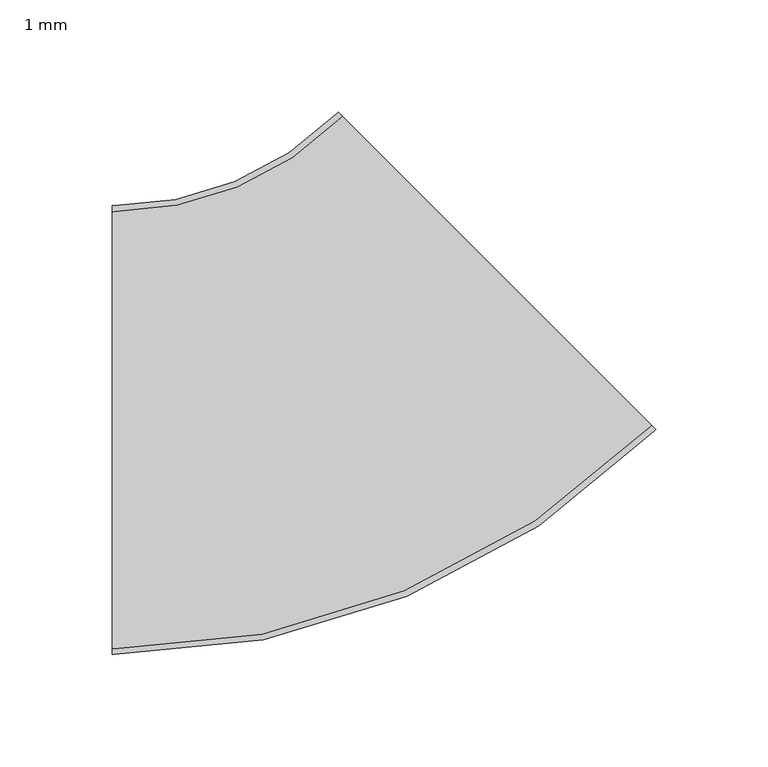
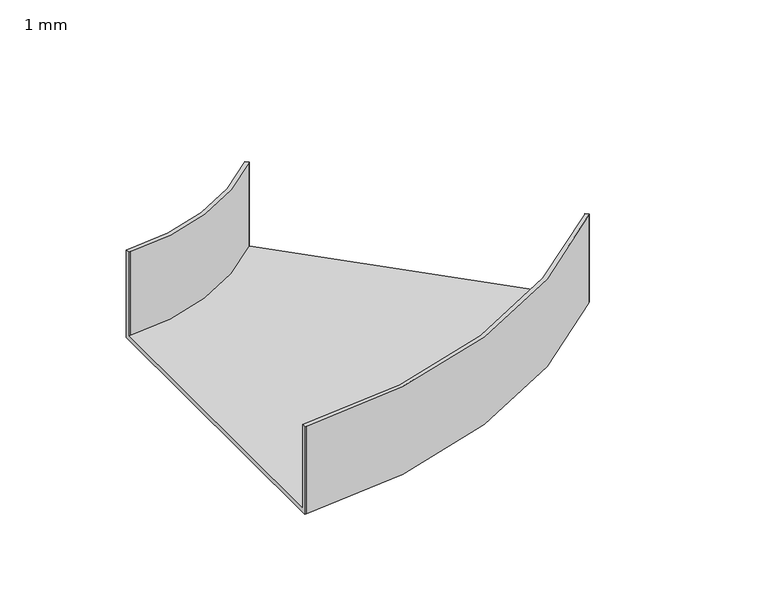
"""IFC4 building model written with IfcOpenShell, lengths in millimetres: cable carrier fitting geometry, BAKS_Kolano_koryta (R140) : 1 mm."""

import ifcopenshell
import ifcopenshell.guid

model = None  # the IFC model being written
_history = None  # IfcOwnerHistory: only IFC2X3 demands one
_inside = {}  # id of a spatial element -> (the spatial element, [elements in it])
_under = {}  # id of a project, library or spatial element -> (it, [spatial elements below it])
_declared = {}  # id of a project -> (the project, [libraries it declares])
_typed = {}  # id of a type object -> (the type object, [elements of that type])
_made_of = {}  # id of a material, layer set ... -> (it, [elements and type objects made of it])


def new_model(schema):
    """Start an empty IFC model of exactly this schema.

    Asked for "IFC4X3", IfcOpenShell would pick the latest addendum, in which some entities
    have other attributes; the version numbers below select the first issue.
    IFC2X3 requires an IfcOwnerHistory on every rooted entity: one is made here for all.
    """
    global model, _history
    if schema == "IFC4X3":
        model = ifcopenshell.file(schema_version=(4, 3, 0, 0))
    else:
        model = ifcopenshell.file(schema=schema)
    _inside.clear()
    _under.clear()
    _declared.clear()
    _typed.clear()
    _made_of.clear()
    _history = None
    if model.schema == "IFC2X3":
        org = make("IfcOrganization", Name="unknown")
        user = make(
            "IfcPersonAndOrganization",
            ThePerson=make("IfcPerson", FamilyName="unknown"),
            TheOrganization=org,
        )
        app = make(
            "IfcApplication",
            ApplicationDeveloper=org,
            Version="unknown",
            ApplicationFullName="unknown",
            ApplicationIdentifier="unknown",
        )
        _history = make(
            "IfcOwnerHistory",
            OwningUser=user,
            OwningApplication=app,
            ChangeAction="ADDED",
            CreationDate=0,
        )
    return model


def make(cls, **values):
    """One entity of the class cls with the attributes given. An attribute that is None is left unset."""
    return model.create_entity(
        cls, **{name: value for name, value in values.items() if value is not None}
    )


def rooted(cls, **values):
    """An entity with a GlobalId (a new one), such as an element, a storey or a relation."""
    return make(cls, GlobalId=ifcopenshell.guid.new(), OwnerHistory=_history, **values)


def si_unit(unit_type, name, prefix=None):
    """IfcSIUnit, for example si_unit("LENGTHUNIT", "METRE", prefix="MILLI")."""
    return make("IfcSIUnit", UnitType=unit_type, Prefix=prefix, Name=name)


def assignment(units):
    """IfcUnitAssignment: the units of a project."""
    return None if units is None else make("IfcUnitAssignment", Units=units)


def point(xyz):
    """IfcCartesianPoint."""
    return None if xyz is None else make("IfcCartesianPoint", Coordinates=xyz)


def direction(xyz):
    """IfcDirection."""
    return None if xyz is None else make("IfcDirection", DirectionRatios=xyz)


def frame(location, z_axis=None, x_axis=None):
    """IfcAxis2Placement3D, a coordinate frame: its origin and axes. An axis left out is left unset."""
    return make(
        "IfcAxis2Placement3D",
        Location=point(location),
        Axis=direction(z_axis),
        RefDirection=direction(x_axis),
    )


def origin():
    """The frame at (0, 0, 0) with its axes left unset."""
    return frame((0.0, 0.0, 0.0))


def place(relative_to, where):
    """IfcLocalPlacement: puts the frame where relative to a parent placement (None: the world)."""
    return make(
        "IfcLocalPlacement", PlacementRelTo=relative_to, RelativePlacement=where
    )


def context(
    kind, dimensions, precision=None, world=None, true_north=None, identifier=None
):
    """IfcGeometricRepresentationContext, for example the 3D "Model" context."""
    return make(
        "IfcGeometricRepresentationContext",
        ContextIdentifier=identifier,
        ContextType=kind,
        CoordinateSpaceDimension=dimensions,
        Precision=precision,
        WorldCoordinateSystem=world,
        TrueNorth=true_north,
    )


def project(units=None, contexts=None):
    """IfcProject with its units and contexts."""
    return rooted(
        "IfcProject",
        Name="project",
        RepresentationContexts=contexts,
        UnitsInContext=assignment(units),
    )


def spatial(cls, under=None, at=None, **own):
    """A site, building, storey or space (cls), placed at a placement, below another one or the project."""
    s = rooted(cls, ObjectPlacement=at, **own)
    if under is not None:
        _under.setdefault(under.id(), (under, []))[1].append(s)
    return s


def polyline(points):
    """IfcPolyline through the points."""
    return make("IfcPolyline", Points=[point(p) for p in points])


def circle_curve(where, radius):
    """IfcCircle in the frame where."""
    return make("IfcCircle", Position=where, Radius=radius)


def shape(context_of_items, identifier, shape_type, items):
    """IfcShapeRepresentation: the items that make up one representation, for example the "Body"."""
    return make(
        "IfcShapeRepresentation",
        ContextOfItems=context_of_items,
        RepresentationIdentifier=identifier,
        RepresentationType=shape_type,
        Items=items,
    )


def source(mapping_origin, context_of_items, identifier, shape_type, items):
    """IfcRepresentationMap: a shape defined once, which mapped items show again and again."""
    return make(
        "IfcRepresentationMap",
        MappingOrigin=mapping_origin,
        MappedRepresentation=shape(context_of_items, identifier, shape_type, items),
    )


def transform(
    local_origin,
    x_axis=None,
    y_axis=None,
    z_axis=None,
    scale=None,
    scale2=None,
    scale3=None,
    uniform=True,
):
    """IfcCartesianTransformationOperator3D, or its non-uniform kind. x_axis, y_axis, z_axis: its Axis1, 2, 3."""
    if uniform:
        return make(
            "IfcCartesianTransformationOperator3D",
            Axis1=direction(x_axis),
            Axis2=direction(y_axis),
            LocalOrigin=point(local_origin),
            Scale=scale,
            Axis3=direction(z_axis),
        )
    return make(
        "IfcCartesianTransformationOperator3DnonUniform",
        Axis1=direction(x_axis),
        Axis2=direction(y_axis),
        LocalOrigin=point(local_origin),
        Scale=scale,
        Axis3=direction(z_axis),
        Scale2=scale2,
        Scale3=scale3,
    )


def mapped(mapping_source, mapping_target):
    """IfcMappedItem: shows the shape of a source again, moved by a transform."""
    return make(
        "IfcMappedItem", MappingSource=mapping_source, MappingTarget=mapping_target
    )


def made_of(thing, what):
    """Note that an element or type object is made of a material, layer set ...; save() writes the relation."""
    if what is not None:
        _made_of.setdefault(what.id(), (what, []))[1].append(thing)
    return thing


def element(
    cls,
    number,
    at=None,
    inside=None,
    cuts=None,
    type_object=None,
    material=None,
    context=None,
    identifier="Body",
    shape_type=None,
    held_by="IfcProductDefinitionShape",
    body=None,
    shapes=None,
    **own,
):
    """One element of the class cls, such as IfcWall. Its Tag is "e" and its number.

    at: its placement. inside: the storey or other place that contains it. cuts: it is an
    opening in that element (IfcRelVoidsElement). A single representation is given by context,
    identifier, shape_type and body (its items); several are given by shapes. held_by: the class
    of the entity that holds the representations. save() writes the other relations.
    """
    e = rooted(cls, Tag="e%d" % number, ObjectPlacement=at, **own)
    if body is not None:
        shapes = [shape(context, identifier, shape_type, body)]
    if shapes is not None:
        e.Representation = make(held_by, Representations=shapes)
    if inside is not None:
        _inside.setdefault(inside.id(), (inside, []))[1].append(e)
    if cuts is not None:
        rooted(
            "IfcRelVoidsElement", RelatingBuildingElement=cuts, RelatedOpeningElement=e
        )
    if type_object is not None:
        _typed.setdefault(type_object.id(), (type_object, []))[1].append(e)
    return made_of(e, material)


def aggregate(whole, parts):
    """IfcRelAggregates: a whole, such as a stair, and the parts it consists of."""
    return rooted("IfcRelAggregates", RelatingObject=whole, RelatedObjects=parts)


def save(model, path):
    """Write the relations noted so far, then the file.

    IfcRelAggregates (storeys below a building ...), IfcRelContainedInSpatialStructure (elements
    in a storey), IfcRelDefinesByType, IfcRelAssociatesMaterial and IfcRelDeclares: one each for
    every whole, place, type object, material and project.
    """
    for whole, parts in _under.values():
        aggregate(whole, parts)
    for where, things in _inside.values():
        rooted(
            "IfcRelContainedInSpatialStructure",
            RelatedElements=things,
            RelatingStructure=where,
        )
    for kind, things in _typed.values():
        rooted("IfcRelDefinesByType", RelatedObjects=things, RelatingType=kind)
    for what, things in _made_of.values():
        rooted("IfcRelAssociatesMaterial", RelatedObjects=things, RelatingMaterial=what)
    for by, libraries in _declared.values():
        rooted("IfcRelDeclares", RelatingContext=by, RelatedDefinitions=libraries)
    model.write(path)


def plane_surface(at):
    """IfcPlane: the flat surface through the origin of the frame at, square to its z axis."""
    return make("IfcPlane", Position=at)


def cylinder_surface(at, radius):
    """IfcCylindricalSurface: all points at the distance radius from the z axis of the frame at."""
    return make("IfcCylindricalSurface", Position=at, Radius=radius)


def revolved_surface(curve, axis_point, axis_direction):
    """IfcSurfaceOfRevolution: the curve turned about the line through axis_point along axis_direction."""
    return make(
        "IfcSurfaceOfRevolution",
        SweptCurve=make("IfcArbitraryOpenProfileDef", ProfileType="CURVE", Curve=curve),
        AxisPosition=make("IfcAxis1Placement", Location=point(axis_point), Axis=direction(axis_direction)),
    )


def advanced_brep(points, edges, surfaces, faces):
    """IfcAdvancedBrep: a solid bounded by faces that lie on surfaces and meet in shared edges.

    An edge is (start, end): straight between two places in points (the first is 0);
    or (start, end, curve); or (start, end, curve, False) where it runs against its curve.
    A face is (place in surfaces, loops), or (place, loops, False) where it looks against
    its surface's normal. A loop lists edges by number (the first is 1), with a minus sign
    where the edge is run from its end to its start. The first loop is the outer one.
    """
    corners = [point(p) for p in points]
    vertices = [make("IfcVertexPoint", VertexGeometry=c) for c in corners]
    made = []
    for start, end, *more in edges:
        made.append(
            make(
                "IfcEdgeCurve",
                EdgeStart=vertices[start],
                EdgeEnd=vertices[end],
                EdgeGeometry=more[0] if more else make("IfcPolyline", Points=[corners[start], corners[end]]),
                SameSense=more[1] if len(more) > 1 else True,
            )
        )
    hull = []
    for where, loops, *sense in faces:
        bounds = []
        for j, loop in enumerate(loops):
            ring = [make("IfcOrientedEdge", EdgeElement=made[abs(k) - 1], Orientation=k > 0) for k in loop]
            bounds.append(
                make(
                    "IfcFaceOuterBound" if j == 0 else "IfcFaceBound",
                    Bound=make("IfcEdgeLoop", EdgeList=ring),
                    Orientation=True,
                )
            )
        hull.append(make("IfcAdvancedFace", Bounds=bounds, FaceSurface=surfaces[where], SameSense=sense[0] if sense else True))
    return make("IfcAdvancedBrep", Outer=make("IfcClosedShell", CfsFaces=hull))


def cable_carrier_fitting_1_mm_6862339d(model_context):
    return source(origin(), model_context, "Body", "AdvancedBrep", [
        advanced_brep(
        [(-100.411255, -100.0, -30.0), (-100.411255, -100.0, 30.0), (-100.411255, -97.46, 30.0), (-100.411255, -97.46, -27.46), (-100.411255, 97.46, -27.46), (-100.411255, 97.46, 30.0), (-100.411255, 100.0, 30.0), (-100.411255, 100.0, -30.0), (141.7121574, 0.2908012, -30.0), (0.2908012, 141.7121574, -30.0), (0.2908012, 141.7121574, 30.0), (2.0868524, 139.9161062, 30.0), (2.0868524, 139.9161062, -27.46), (139.9161062, 2.0868524, -27.46), (139.9161062, 2.0868524, 30.0), (141.7121574, 0.2908012, 30.0), (-99.411255, -100.0, -30.0), (-99.411255, -100.0, 30.0), (141.0050506, -0.4163056, 30.0), (139.2089994, 1.3797456, 30.0), (-99.411255, -97.46, 30.0), (-99.411255, -97.46, -27.46), (139.2089994, 1.3797456, -27.46), (1.3797456, 139.2089994, -27.46), (-99.411255, 97.46, -27.46), (-99.411255, 97.46, 30.0), (1.3797456, 139.2089994, 30.0), (-0.4163056, 141.0050506, 30.0), (-99.411255, 100.0, 30.0), (-99.411255, 100.0, -30.0), (-0.4163056, 141.0050506, -30.0), (141.0050506, -0.4163056, -30.0)],
        [
            (0, 1),
            (1, 2),
            (2, 3),
            (3, 4),
            (4, 5),
            (5, 6),
            (6, 7),
            (7, 0),
            (8, 9),
            (9, 10),
            (10, 11),
            (11, 12),
            (12, 13),
            (13, 14),
            (14, 15),
            (15, 8),
            (0, 16),
            (16, 17),
            (17, 1),
            (17, 18, circle_curve(frame((-99.411255, 240.0, 30.0), z_axis=(0.0, 0.0, 1.0), x_axis=(0.0, -1.0, 0.0)), 340.0)),
            (18, 15),
            (14, 19),
            (19, 20, circle_curve(frame((-99.411255, 240.0, 30.0), z_axis=(0.0, 0.0, -1.0), x_axis=(0.0, -1.0, 0.0)), 337.46)),
            (20, 2),
            (20, 21),
            (21, 3),
            (21, 22, circle_curve(frame((-99.411255, 240.0, -27.46), z_axis=(0.0, 0.0, 1.0), x_axis=(0.0, -1.0, 0.0)), 337.46)),
            (22, 13),
            (12, 23),
            (23, 24, circle_curve(frame((-99.411255, 240.0, -27.46), z_axis=(0.0, 0.0, -1.0), x_axis=(0.0, -1.0, 0.0)), 142.54)),
            (24, 4),
            (24, 25),
            (25, 5),
            (25, 26, circle_curve(frame((-99.411255, 240.0, 30.0), z_axis=(0.0, 0.0, 1.0), x_axis=(0.0, -1.0, 0.0)), 142.54)),
            (26, 11),
            (10, 27),
            (27, 28, circle_curve(frame((-99.411255, 240.0, 30.0), z_axis=(0.0, 0.0, -1.0), x_axis=(0.0, -1.0, 0.0)), 140.0)),
            (28, 6),
            (28, 29),
            (29, 7),
            (29, 30, circle_curve(frame((-99.411255, 240.0, -30.0), z_axis=(0.0, 0.0, 1.0), x_axis=(0.0, -1.0, 0.0)), 140.0)),
            (30, 9),
            (8, 31),
            (31, 16, circle_curve(frame((-99.411255, 240.0, -30.0), z_axis=(0.0, 0.0, -1.0), x_axis=(0.0, -1.0, 0.0)), 340.0)),
            (31, 18),
            (19, 22),
            (23, 26),
            (27, 30),
        ],
        [
            plane_surface(frame((-100.411255, 0.0, 0.0), z_axis=(-1.0, -4.906741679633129e-12, 0.0), x_axis=(0.0, 0.0, 1.0))),
            plane_surface(frame((71.0014793, 71.0014793, 0.0), z_axis=(0.707106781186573, 0.707106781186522, 0.0), x_axis=(0.0, 0.0, 1.0))),
            plane_surface(frame((-100.411255, -100.0, -30.0), z_axis=(4.906741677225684e-12, -1.0, 0.0), x_axis=(1.0, 4.906741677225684e-12, 0.0))),
            plane_surface(frame((-100.411255, -100.0, 30.0), z_axis=(0.0, 0.0, 1.0), x_axis=(1.0, 4.906741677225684e-12, 0.0))),
            plane_surface(frame((-100.411255, -97.46, 30.0), z_axis=(-4.889821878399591e-12, 1.0, 0.0), x_axis=(1.0, 4.889821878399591e-12, 0.0))),
            plane_surface(frame((-100.411255, -97.46, -27.46), z_axis=(0.0, 0.0, 1.0), x_axis=(1.0, 4.906741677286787e-12, 0.0))),
            plane_surface(frame((-100.411255, 97.46, -27.46), z_axis=(4.906741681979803e-12, -1.0, 0.0), x_axis=(1.0, 4.906741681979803e-12, 0.0))),
            plane_surface(frame((-100.411255, 97.46, 30.0), z_axis=(0.0, 0.0, 1.0), x_axis=(1.0, 4.906741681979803e-12, 0.0))),
            plane_surface(frame((-100.411255, 100.0, 30.0), z_axis=(-4.906741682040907e-12, 1.0, 0.0), x_axis=(1.0, 4.906741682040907e-12, 0.0))),
            plane_surface(frame((-100.411255, 100.0, -30.0), z_axis=(0.0, 0.0, -1.0), x_axis=(1.0, 4.906741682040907e-12, 0.0))),
            cylinder_surface(frame((-99.411255, 240.0, 0.0), z_axis=(0.0, 0.0, 1.0), x_axis=(0.0, -1.0, 0.0)), 340.0),
            revolved_surface(polyline([(-99.411255, -97.45999999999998, 30.0), (-99.411255, -97.45999999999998, -27.46)]), (-99.411255, 240.0, 0.0), (0.0, 0.0, 1.0)),
            cylinder_surface(frame((-99.411255, 240.0, 0.0), z_axis=(0.0, 0.0, 1.0), x_axis=(0.0, -1.0, 0.0)), 142.54),
            revolved_surface(polyline([(-99.411255, 100.0, 30.0), (-99.411255, 100.0, -30.0)]), (-99.411255, 240.0, 0.0), (0.0, 0.0, 1.0)),
            plane_surface(frame((141.0050506, -0.4163056, -30.0), z_axis=(0.7071067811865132, -0.7071067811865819, 0.0), x_axis=(0.7071067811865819, 0.7071067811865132, 0.0))),
            plane_surface(frame((139.2089994, 1.3797456, 30.0), z_axis=(-0.7071067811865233, 0.7071067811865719, 0.0), x_axis=(0.7071067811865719, 0.7071067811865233, 0.0))),
            plane_surface(frame((1.3797456, 139.2089994, -27.46), z_axis=(0.707106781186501, -0.7071067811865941, 0.0), x_axis=(0.7071067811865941, 0.707106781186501, 0.0))),
            plane_surface(frame((-0.4163056, 141.0050506, 30.0), z_axis=(-0.7071067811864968, 0.7071067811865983, 0.0), x_axis=(0.7071067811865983, 0.7071067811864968, 0.0))),
        ],
        [
            (0, [[1, 2, 3, 4, 5, 6, 7, 8]]),
            (1, [[9, 10, 11, 12, 13, 14, 15, 16]]),
            (2, [[-1, 17, 18, 19]]),
            (3, [[-2, -19, 20, 21, -15, 22, 23, 24]]),
            (4, [[-3, -24, 25, 26]]),
            (5, [[-4, -26, 27, 28, -13, 29, 30, 31]]),
            (6, [[-5, -31, 32, 33]]),
            (7, [[-6, -33, 34, 35, -11, 36, 37, 38]]),
            (8, [[-7, -38, 39, 40]]),
            (9, [[-8, -40, 41, 42, -9, 43, 44, -17]]),
            (10, [[-20, -18, -44, 45]]),
            (11, [[-27, -25, -23, 46]]),
            (12, [[-34, -32, -30, 47]]),
            (13, [[-41, -39, -37, 48]]),
            (14, [[-45, -43, -16, -21]]),
            (15, [[-46, -22, -14, -28]]),
            (16, [[-47, -29, -12, -35]]),
            (17, [[-48, -36, -10, -42]]),
        ],
    ),
    ])


if __name__ == "__main__":
    model = new_model("IFC4")
    model_context = context("Model", 3, world=origin())
    ifc_project = project(units=[si_unit("LENGTHUNIT", "METRE", prefix="MILLI")], contexts=[model_context])
    site = spatial("IfcSite", under=ifc_project)
    building = spatial("IfcBuilding", under=site)
    placement = place(None, origin())
    cable_carrier_fitting_1_mm_shape = cable_carrier_fitting_1_mm_6862339d(model_context)
    element("IfcCableCarrierFitting", 1, ObjectType="BAKS_Kolano_koryta (R140) : 1 mm", at=placement, inside=building, context=model_context, shape_type="MappedRepresentation", body=[
        mapped(cable_carrier_fitting_1_mm_shape, transform((0.0, 0.0, 0.0), x_axis=(1.0, 0.0, 0.0), y_axis=(0.0, 1.0, 0.0), z_axis=(0.0, 0.0, 1.0))),
    ])
    save(model, "model.ifc")
